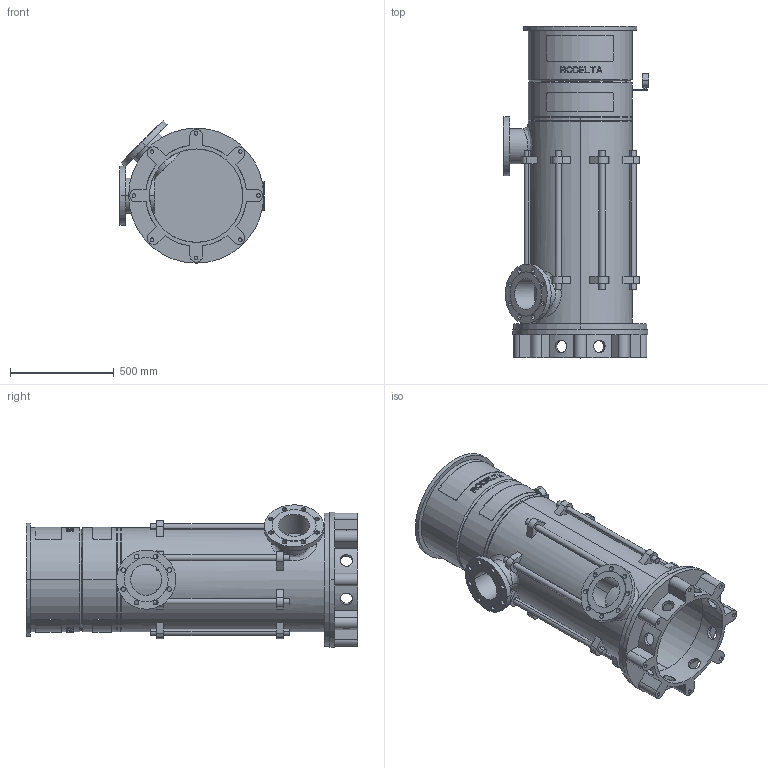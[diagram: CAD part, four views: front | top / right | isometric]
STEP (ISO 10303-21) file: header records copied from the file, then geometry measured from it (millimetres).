
FILE_DESCRIPTION((''),'2;1');
FILE_NAME('LS6_4TR_0GR_PN16_ABOVE_30KW','2025-10-23T14:02:10',('Lyritlocal'),(''),'CREO PARAMETRIC BY PTC INC, 2022014','CREO PARAMETRIC BY PTC INC, 2022014','');
FILE_SCHEMA(('CONFIG_CONTROL_DESIGN'));
Length unit declared in the file: millimetre
Products named in the file (1): LS6_4TR_0GR_PN16_ABOVE_30KW
Bounding box: 700 x 1597 x 685.27 mm (x, y, z)
Volume: 53239358.1 mm3; surface area: 7315313.6 mm2
Topology: 3 solids, 11 shells, 732 faces, 1889 edges, 1258 vertices
Faces by surface type: plane 438, cylinder 274, cone 12, bspline 8
Entity records: 24421 total; most frequent: CARTESIAN_POINT 6601, ORIENTED_EDGE 3746, DIRECTION 3535, EDGE_CURVE 1889, AXIS2_PLACEMENT_3D 1341, VERTEX_POINT 1258, EDGE_LOOP 895, VECTOR 853
